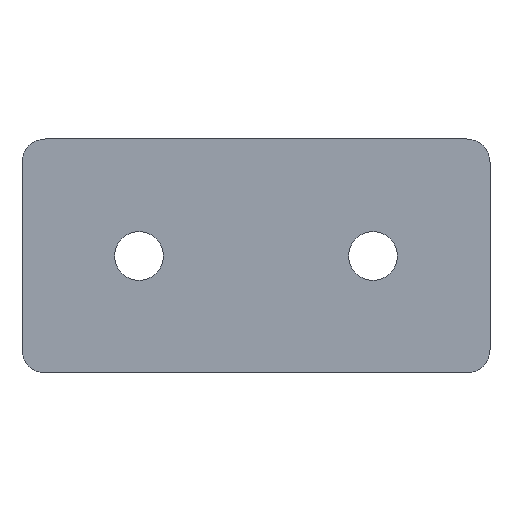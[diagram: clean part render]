
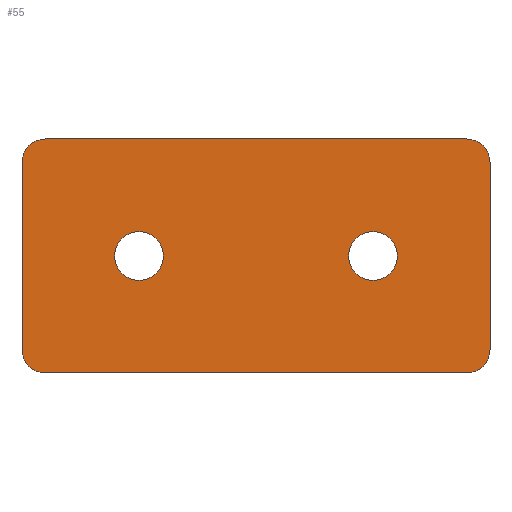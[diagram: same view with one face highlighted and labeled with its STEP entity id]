
A CAD part, front view. The second image highlights one B-rep face of the part: STEP entity #55.
In plain terms, the highlighted planar face has unit normal (0, -1, 0).
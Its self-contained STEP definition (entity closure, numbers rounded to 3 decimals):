
#1 = AXIS2_PLACEMENT_3D ( 'NONE', #65, #285, #405 ) ;
#10 = DIRECTION ( 'NONE',  ( 0., 0., 1. ) ) ;
#15 = CIRCLE ( 'NONE', #1, 4. ) ;
#19 = DIRECTION ( 'NONE',  ( 0., 0., 1. ) ) ;
#22 = ORIENTED_EDGE ( 'NONE', *, *, #458, .F. ) ;
#25 = CARTESIAN_POINT ( 'NONE',  ( -36., -5., 20. ) ) ;
#27 = CARTESIAN_POINT ( 'NONE',  ( -36., -5., -16. ) ) ;
#28 = VERTEX_POINT ( 'NONE', #171 ) ;
#30 = CARTESIAN_POINT ( 'NONE',  ( 40., -5., 20. ) ) ;
#33 = EDGE_CURVE ( 'NONE', #124, #274, #404, .T. ) ;
#55 = ADVANCED_FACE ( 'NONE', ( #284, #66, #67 ), #478, .F. ) ;
#58 = DIRECTION ( 'NONE',  ( 0., -1., 0. ) ) ;
#63 = DIRECTION ( 'NONE',  ( 0., -1., 0. ) ) ;
#64 = EDGE_LOOP ( 'NONE', ( #160, #352 ) ) ;
#65 = CARTESIAN_POINT ( 'NONE',  ( -36., -5., 16. ) ) ;
#66 = FACE_BOUND ( 'NONE', #242, .T. ) ;
#67 = FACE_OUTER_BOUND ( 'NONE', #132, .T. ) ;
#76 = CIRCLE ( 'NONE', #450, 4.15 ) ;
#82 = AXIS2_PLACEMENT_3D ( 'NONE', #164, #83, #10 ) ;
#83 = DIRECTION ( 'NONE',  ( 0., -1., 0. ) ) ;
#84 = EDGE_CURVE ( 'NONE', #124, #108, #337, .T. ) ;
#88 = CARTESIAN_POINT ( 'NONE',  ( -40., -5., -20. ) ) ;
#89 = VERTEX_POINT ( 'NONE', #260 ) ;
#98 = CARTESIAN_POINT ( 'NONE',  ( 36., -5., 16. ) ) ;
#104 = ORIENTED_EDGE ( 'NONE', *, *, #217, .T. ) ;
#108 = VERTEX_POINT ( 'NONE', #488 ) ;
#116 = CIRCLE ( 'NONE', #467, 4. ) ;
#121 = EDGE_CURVE ( 'NONE', #460, #89, #76, .T. ) ;
#124 = VERTEX_POINT ( 'NONE', #415 ) ;
#125 = CIRCLE ( 'NONE', #203, 4.15 ) ;
#132 = EDGE_LOOP ( 'NONE', ( #469, #162, #104, #310, #340, #299, #22, #151 ) ) ;
#137 = DIRECTION ( 'NONE',  ( 0., 0., 1. ) ) ;
#142 = AXIS2_PLACEMENT_3D ( 'NONE', #222, #441, #137 ) ;
#146 = VERTEX_POINT ( 'NONE', #302 ) ;
#150 = CARTESIAN_POINT ( 'NONE',  ( 20., -5., 0. ) ) ;
#151 = ORIENTED_EDGE ( 'NONE', *, *, #464, .T. ) ;
#158 = EDGE_CURVE ( 'NONE', #287, #369, #442, .T. ) ;
#160 = ORIENTED_EDGE ( 'NONE', *, *, #350, .T. ) ;
#161 = DIRECTION ( 'NONE',  ( 0., 1., 0. ) ) ;
#162 = ORIENTED_EDGE ( 'NONE', *, *, #420, .T. ) ;
#164 = CARTESIAN_POINT ( 'NONE',  ( 36., -5., -16. ) ) ;
#168 = CARTESIAN_POINT ( 'NONE',  ( 36., -5., 20. ) ) ;
#170 = CARTESIAN_POINT ( 'NONE',  ( -40., -5., 20. ) ) ;
#171 = CARTESIAN_POINT ( 'NONE',  ( -36., -5., -20. ) ) ;
#174 = VERTEX_POINT ( 'NONE', #384 ) ;
#176 = CARTESIAN_POINT ( 'NONE',  ( -20., -5., -4.15 ) ) ;
#194 = VECTOR ( 'NONE', #423, 1000. ) ;
#199 = EDGE_CURVE ( 'NONE', #89, #460, #272, .T. ) ;
#203 = AXIS2_PLACEMENT_3D ( 'NONE', #484, #473, #19 ) ;
#212 = DIRECTION ( 'NONE',  ( 0., 0., 1. ) ) ;
#213 = AXIS2_PLACEMENT_3D ( 'NONE', #98, #58, #482 ) ;
#217 = EDGE_CURVE ( 'NONE', #28, #174, #238, .T. ) ;
#221 = VECTOR ( 'NONE', #412, 1000. ) ;
#222 = CARTESIAN_POINT ( 'NONE',  ( -40., -5., 20. ) ) ;
#235 = AXIS2_PLACEMENT_3D ( 'NONE', #426, #459, #268 ) ;
#238 = LINE ( 'NONE', #88, #194 ) ;
#242 = EDGE_LOOP ( 'NONE', ( #389, #294 ) ) ;
#260 = CARTESIAN_POINT ( 'NONE',  ( 20., -5., -4.15 ) ) ;
#263 = DIRECTION ( 'NONE',  ( 0., 1., 0. ) ) ;
#265 = EDGE_CURVE ( 'NONE', #174, #108, #288, .T. ) ;
#266 = VECTOR ( 'NONE', #321, 1000. ) ;
#268 = DIRECTION ( 'NONE',  ( 0., 0., 1. ) ) ;
#272 = CIRCLE ( 'NONE', #235, 4.15 ) ;
#274 = VERTEX_POINT ( 'NONE', #168 ) ;
#284 = FACE_BOUND ( 'NONE', #64, .T. ) ;
#285 = DIRECTION ( 'NONE',  ( 0., -1., 0. ) ) ;
#287 = VERTEX_POINT ( 'NONE', #318 ) ;
#288 = CIRCLE ( 'NONE', #82, 4. ) ;
#294 = ORIENTED_EDGE ( 'NONE', *, *, #121, .T. ) ;
#298 = DIRECTION ( 'NONE',  ( 0., 0., 1. ) ) ;
#299 = ORIENTED_EDGE ( 'NONE', *, *, #33, .T. ) ;
#302 = CARTESIAN_POINT ( 'NONE',  ( -40., -5., 16. ) ) ;
#310 = ORIENTED_EDGE ( 'NONE', *, *, #265, .T. ) ;
#311 = CARTESIAN_POINT ( 'NONE',  ( -20., -5., 0. ) ) ;
#318 = CARTESIAN_POINT ( 'NONE',  ( -20., -5., 4.15 ) ) ;
#321 = DIRECTION ( 'NONE',  ( 0., 0., -1. ) ) ;
#324 = DIRECTION ( 'NONE',  ( 1., 0., 0. ) ) ;
#337 = LINE ( 'NONE', #30, #221 ) ;
#340 = ORIENTED_EDGE ( 'NONE', *, *, #84, .F. ) ;
#347 = AXIS2_PLACEMENT_3D ( 'NONE', #311, #161, #463 ) ;
#350 = EDGE_CURVE ( 'NONE', #369, #287, #125, .T. ) ;
#352 = ORIENTED_EDGE ( 'NONE', *, *, #158, .T. ) ;
#358 = LINE ( 'NONE', #170, #266 ) ;
#368 = CARTESIAN_POINT ( 'NONE',  ( -40., -5., -16. ) ) ;
#369 = VERTEX_POINT ( 'NONE', #176 ) ;
#379 = VERTEX_POINT ( 'NONE', #25 ) ;
#384 = CARTESIAN_POINT ( 'NONE',  ( 36., -5., -20. ) ) ;
#389 = ORIENTED_EDGE ( 'NONE', *, *, #199, .T. ) ;
#394 = VERTEX_POINT ( 'NONE', #368 ) ;
#404 = CIRCLE ( 'NONE', #213, 4. ) ;
#405 = DIRECTION ( 'NONE',  ( 0., 0., 1. ) ) ;
#409 = EDGE_CURVE ( 'NONE', #146, #394, #358, .T. ) ;
#412 = DIRECTION ( 'NONE',  ( 0., 0., -1. ) ) ;
#415 = CARTESIAN_POINT ( 'NONE',  ( 40., -5., 16. ) ) ;
#420 = EDGE_CURVE ( 'NONE', #394, #28, #116, .T. ) ;
#423 = DIRECTION ( 'NONE',  ( 1., 0., 0. ) ) ;
#426 = CARTESIAN_POINT ( 'NONE',  ( 20., -5., 0. ) ) ;
#440 = CARTESIAN_POINT ( 'NONE',  ( -40., -5., 20. ) ) ;
#441 = DIRECTION ( 'NONE',  ( 0., 1., 0. ) ) ;
#442 = CIRCLE ( 'NONE', #347, 4.15 ) ;
#444 = LINE ( 'NONE', #440, #470 ) ;
#450 = AXIS2_PLACEMENT_3D ( 'NONE', #150, #263, #298 ) ;
#458 = EDGE_CURVE ( 'NONE', #379, #274, #444, .T. ) ;
#459 = DIRECTION ( 'NONE',  ( 0., 1., 0. ) ) ;
#460 = VERTEX_POINT ( 'NONE', #477 ) ;
#463 = DIRECTION ( 'NONE',  ( 0., 0., 1. ) ) ;
#464 = EDGE_CURVE ( 'NONE', #379, #146, #15, .T. ) ;
#467 = AXIS2_PLACEMENT_3D ( 'NONE', #27, #63, #212 ) ;
#469 = ORIENTED_EDGE ( 'NONE', *, *, #409, .T. ) ;
#470 = VECTOR ( 'NONE', #324, 1000. ) ;
#473 = DIRECTION ( 'NONE',  ( 0., 1., 0. ) ) ;
#477 = CARTESIAN_POINT ( 'NONE',  ( 20., -5., 4.15 ) ) ;
#478 = PLANE ( 'NONE',  #142 ) ;
#482 = DIRECTION ( 'NONE',  ( 0., 0., 1. ) ) ;
#484 = CARTESIAN_POINT ( 'NONE',  ( -20., -5., 0. ) ) ;
#488 = CARTESIAN_POINT ( 'NONE',  ( 40., -5., -16. ) ) ;
